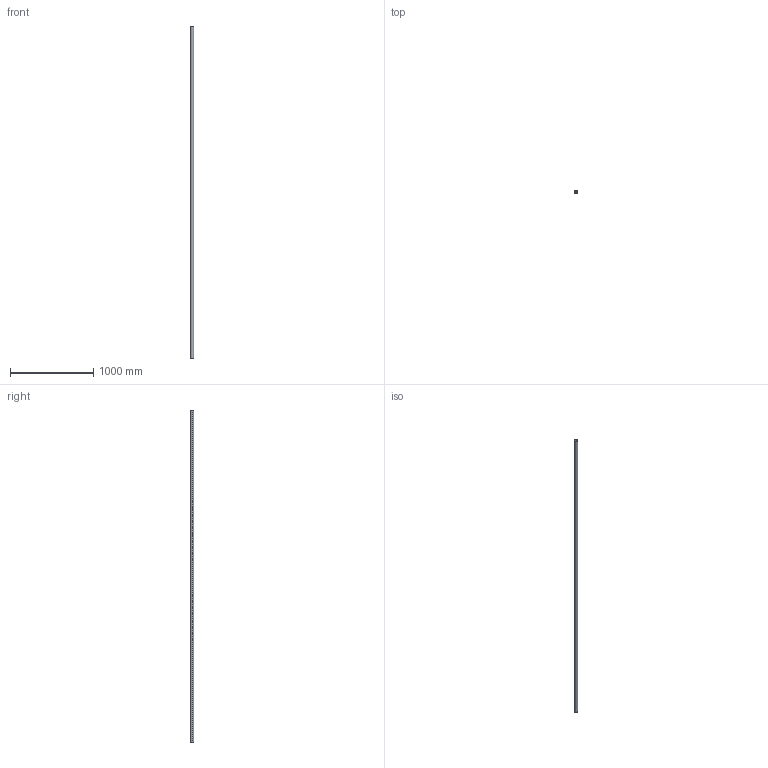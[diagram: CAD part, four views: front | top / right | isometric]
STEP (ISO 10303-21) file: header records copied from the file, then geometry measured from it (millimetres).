
FILE_DESCRIPTION (( 'STEP AP214' ), '1' );
FILE_NAME ('900000011K4GRA.STEP', '2012-10-22T14:59:34', ( '' ), ( '' ), 'SwSTEP 2.0', 'SolidWorks 2012', '' );
FILE_SCHEMA (( 'AUTOMOTIVE_DESIGN' ));
Length unit declared in the file: millimetre
Products named in the file (1): 900000011K4GRA
Bounding box: 40 x 40 x 4000 mm (x, y, z)
Volume: 725707.9 mm3; surface area: 967973.4 mm2
Topology: 1 solids, 1 shells, 6 faces, 12 edges, 8 vertices
Faces by surface type: cylinder 4, plane 2
Entity records: 224 total; most frequent: DIRECTION 34, CARTESIAN_POINT 27, ORIENTED_EDGE 24, AXIS2_PLACEMENT_3D 15, EDGE_CURVE 12, VERTEX_POINT 8, EDGE_LOOP 8, CIRCLE 8
